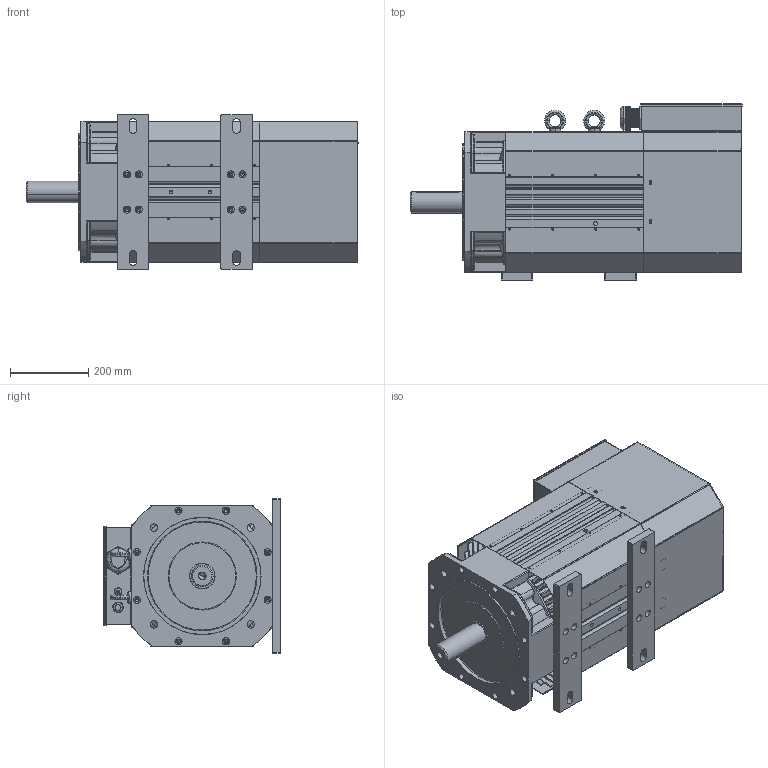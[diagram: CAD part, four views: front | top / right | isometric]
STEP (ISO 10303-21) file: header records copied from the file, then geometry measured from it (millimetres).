
FILE_DESCRIPTION (( 'STEP AP203' ), '1' );
FILE_NAME ('360S-B35-55J 俋倛芞.STEP', '2022-04-16T00:37:53', ( '' ), ( '' ), 'SwSTEP 2.0', 'SolidWorks 2016', '' );
FILE_SCHEMA (( 'CONFIG_CONTROL_DESIGN' ));
Length unit declared in the file: millimetre
Products named in the file (17): 360前盖新开模20210428; 蹟杶M20 1; 360陔羲耀綴裔20210429; 360諉盄碟 1; M12裂遠; 360菁褐200笢陑詢; 蹟杶M16 1; 360諉盄碟裔 1; 360綴裔瑞欶諉盄碟; 360S婦晚; 360瑞欶 瑞儂89.5mm謂擒V3.0; 55J粣; 360S-B35-55J 俋倛芞; ﾇｰｸﾇ+55J; 360諉盄碟郪璃; 蹟杶M50 1; 360S儂褲ㄗ陔羲耀ㄘ
Assembly tree (21 placements, depth 4):
  360S-B35-55J 俋倛芞
    360S儂褲ㄗ陔羲耀ㄘ
    ﾇｰｸﾇ+55J
      360前盖新开模20210428
      55J粣
    360綴裔瑞欶諉盄碟
      360陔羲耀綴裔20210429
      360瑞欶 瑞儂89.5mm謂擒V3.0
      360諉盄碟郪璃
        360諉盄碟 1
        360諉盄碟裔 1
        蹟杶M16 1
        蹟杶M20 1
        蹟杶M50 1
    360S婦晚  x4
    360菁褐200笢陑詢  x2
    M12裂遠  x2
Bounding box: 848 x 450.5 x 395 mm (x, y, z)
Volume: 16853212.5 mm3; surface area: 4247788 mm2
Topology: 18 solids, 18 shells, 3814 faces, 10213 edges, 6359 vertices
Faces by surface type: plane 2026, cylinder 983, bspline 321, cone 257, torus 165, sphere 62
Entity records: 141270 total; most frequent: CARTESIAN_POINT 51496, ORIENTED_EDGE 19190, DIRECTION 17056, EDGE_CURVE 9595, VECTOR 6146, LINE 6146, VERTEX_POINT 6078, AXIS2_PLACEMENT_3D 5455
